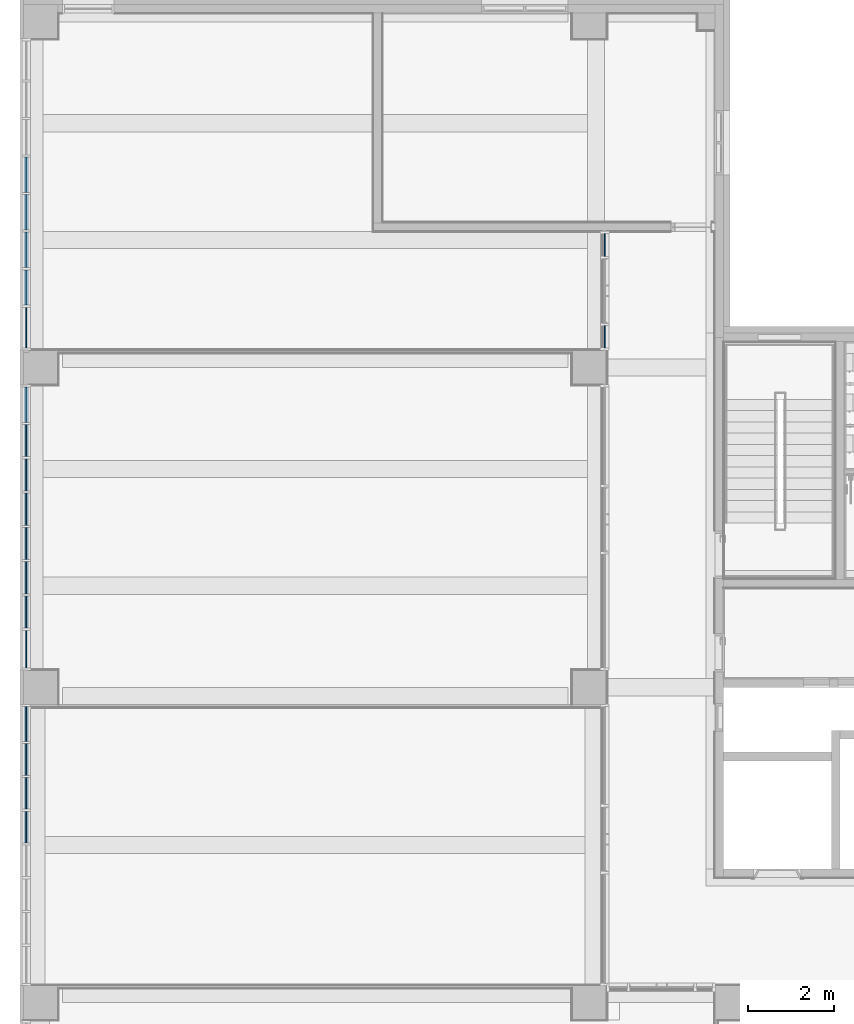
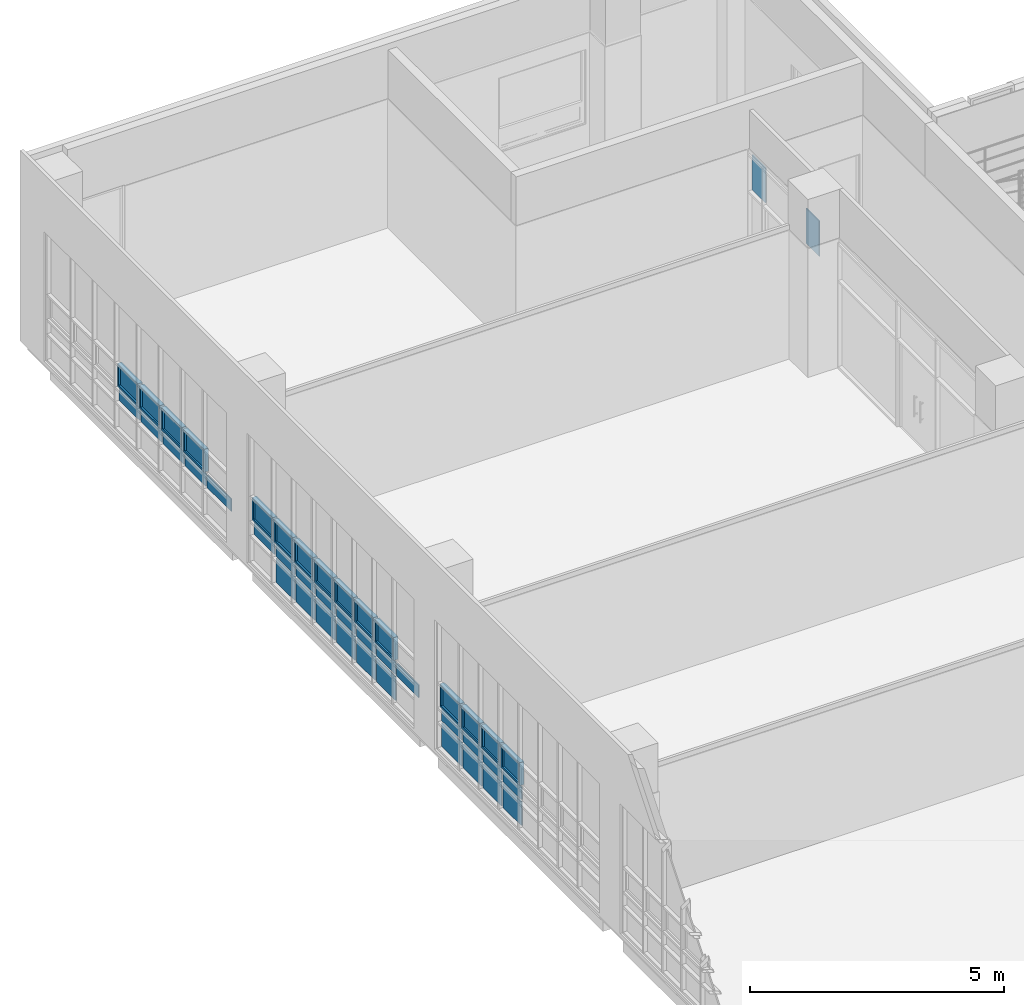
# One storey, part 41 of 74: 44 plates, 4 elements without a shape of their own.
"""IFC2X3 building model written with IfcOpenShell, lengths in millimetres."""

from ifc_helpers import new_model, entity, si_unit, converted_unit, derived_unit, direction, frame, origin, origin_2d_with_axis, place, context, subcontext, project, spatial, polyline, rectangle, outline, extrude, source, transform, mapped, material, material_list, type_object, type_shapes, element, aggregate, save


model = new_model("IFC2X3")

# Units and contexts
model_context = context("Model", 3, precision=0.01, world=origin(), true_north=direction((6.123031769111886e-17, 1.0)))
body_context = subcontext(model_context, "Body", "Model", "MODEL_VIEW")
ifc_project = project(units=[si_unit("LENGTHUNIT", "METRE", prefix="MILLI"), si_unit("AREAUNIT", "SQUARE_METRE"), si_unit("VOLUMEUNIT", "CUBIC_METRE"), converted_unit("PLANEANGLEUNIT", "DEGREE", entity("IfcRatioMeasure", 0.017453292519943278), si_unit("PLANEANGLEUNIT", "RADIAN"), dimensions=[0, 0, 0, 0, 0, 0, 0]), si_unit("MASSUNIT", "GRAM", prefix="KILO"), derived_unit("MASSDENSITYUNIT", [(si_unit("MASSUNIT", "GRAM", prefix="KILO"), 1), (si_unit("LENGTHUNIT", "METRE"), -3)]), derived_unit("MOMENTOFINERTIAUNIT", [(si_unit("LENGTHUNIT", "METRE"), 4)]), si_unit("TIMEUNIT", "SECOND"), si_unit("FREQUENCYUNIT", "HERTZ"), si_unit("THERMODYNAMICTEMPERATUREUNIT", "DEGREE_CELSIUS"), derived_unit("THERMALTRANSMITTANCEUNIT", [(si_unit("MASSUNIT", "GRAM", prefix="KILO"), 1), (si_unit("THERMODYNAMICTEMPERATUREUNIT", "KELVIN"), -1), (si_unit("TIMEUNIT", "SECOND"), -3)]), derived_unit("VOLUMETRICFLOWRATEUNIT", [(si_unit("LENGTHUNIT", "METRE"), 3), (si_unit("TIMEUNIT", "SECOND"), -1)]), derived_unit("MASSFLOWRATEUNIT", [(si_unit("MASSUNIT", "GRAM", prefix="KILO"), 1), (si_unit("TIMEUNIT", "SECOND"), -1)]), derived_unit("ROTATIONALFREQUENCYUNIT", [(si_unit("TIMEUNIT", "SECOND"), -1)]), si_unit("ELECTRICCURRENTUNIT", "AMPERE"), si_unit("ELECTRICVOLTAGEUNIT", "VOLT"), si_unit("POWERUNIT", "WATT"), si_unit("FORCEUNIT", "NEWTON", prefix="KILO"), si_unit("ILLUMINANCEUNIT", "LUX"), si_unit("LUMINOUSFLUXUNIT", "LUMEN"), si_unit("LUMINOUSINTENSITYUNIT", "CANDELA"), derived_unit("USERDEFINED", [(si_unit("MASSUNIT", "GRAM", prefix="KILO"), -1), (si_unit("LENGTHUNIT", "METRE"), -2), (si_unit("TIMEUNIT", "SECOND"), 3), (si_unit("LUMINOUSFLUXUNIT", "LUMEN"), 1)]), derived_unit("SOUNDPOWERUNIT", [(si_unit("MASSUNIT", "GRAM", prefix="KILO"), 1), (si_unit("LENGTHUNIT", "METRE"), 2), (si_unit("TIMEUNIT", "SECOND"), -3)]), derived_unit("SOUNDPRESSUREUNIT", [(si_unit("MASSUNIT", "GRAM", prefix="KILO"), 1), (si_unit("LENGTHUNIT", "METRE"), -1), (si_unit("TIMEUNIT", "SECOND"), -2)]), derived_unit("LINEARVELOCITYUNIT", [(si_unit("LENGTHUNIT", "METRE"), 1), (si_unit("TIMEUNIT", "SECOND"), -1)]), si_unit("PRESSUREUNIT", "PASCAL"), derived_unit("USERDEFINED", [(si_unit("LENGTHUNIT", "METRE"), -2), (si_unit("MASSUNIT", "GRAM", prefix="KILO"), 1), (si_unit("TIMEUNIT", "SECOND"), -2)]), derived_unit("LINEARFORCEUNIT", [(si_unit("MASSUNIT", "GRAM", prefix="KILO"), 1), (si_unit("LENGTHUNIT", "METRE"), 1), (si_unit("TIMEUNIT", "SECOND"), -2), (si_unit("LENGTHUNIT", "METRE"), -1)]), derived_unit("PLANARFORCEUNIT", [(si_unit("MASSUNIT", "GRAM", prefix="KILO"), 1), (si_unit("LENGTHUNIT", "METRE"), 1), (si_unit("TIMEUNIT", "SECOND"), -2), (si_unit("LENGTHUNIT", "METRE"), -2)])], contexts=[model_context])

# Site, building, storey
site_placement = place(None, frame((-14167.972527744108, -657.2125860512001, 0.0)))
site = spatial("IfcSite", under=ifc_project, at=site_placement, Name="Default", CompositionType="ELEMENT")
building_placement = place(site_placement, origin())
building = spatial("IfcBuilding", under=site, at=building_placement, Name="Sample Building", CompositionType="ELEMENT")
storey_placement = place(building_placement, frame((0.0, 0.0, 4800.0)))
storey = spatial("IfcBuildingStorey", under=building, at=storey_placement, Name="지상 2층", CompositionType="ELEMENT", Elevation=4800.000000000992)

# Curtain wall, plates
curtain_wall_type = type_object("IfcCurtainWallType", Name="커튼월:CW112-스테인리스 스틸 커튼월", PredefinedType="NOTDEFINED")
curtain_wall_1_placement = place(storey_placement, frame((0.0, 0.0, -4800.0)))
curtain_wall_1 = element("IfcCurtainWall", 1, at=curtain_wall_1_placement, inside=storey, type_object=curtain_wall_type, Name="커튼월:CW112-스테인리스 스틸 커튼월", ObjectType="커튼월:CW112-스테인리스 스틸 커튼월")
ifc_material_1 = material(Name="KBIMS-로이유리(코팅)")
plate_type_1 = type_object("IfcPlateType", Name="CW300-THK24.Low-e coating glass:CW300-THK24.Low-e coating glass", PredefinedType="CURTAIN_PANEL", material=ifc_material_1)
shared_shape_1 = source(origin(), body_context, "Body", "SweptSolid", [
    extrude(rectangle(XDim=24.000000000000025, YDim=818.7500000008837, at=origin_2d_with_axis()), frame((0.0, 0.0, 0.0), z_axis=(0.0, 0.0, 1.0), x_axis=(0.0, 1.0, 0.0)), (0.0, 0.0, 1.0), 300.0000000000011),
])
type_shapes(plate_type_1, [shared_shape_1])
plate_1_placement = place(curtain_wall_1_placement, frame((14130.455105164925, 31816.58727524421, 5555.0), z_axis=(0.0, 0.0, 1.0), x_axis=(0.0, -1.0, 0.0)))
plate_1 = element("IfcPlate", 2, at=plate_1_placement, type_object=plate_type_1, material=ifc_material_1, Name="CW300-THK24.Low-e coating glass:CW300-THK24.Low-e coating glass", ObjectType="CW300-THK24.Low-e coating glass:CW300-THK24.Low-e coating glass", context=body_context, shape_type="MappedRepresentation", body=[
    mapped(shared_shape_1, transform((0.0, 0.0, 0.0), scale=1.0)),
])
plate_2_placement = place(curtain_wall_1_placement, frame((14130.455105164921, 30947.837275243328, 5555.0), z_axis=(0.0, 0.0, 1.0), x_axis=(0.0, -1.0, 0.0)))
plate_2 = element("IfcPlate", 3, at=plate_2_placement, type_object=plate_type_1, material=ifc_material_1, Name="CW300-THK24.Low-e coating glass:CW300-THK24.Low-e coating glass", ObjectType="CW300-THK24.Low-e coating glass:CW300-THK24.Low-e coating glass", context=body_context, shape_type="MappedRepresentation", body=[
    mapped(shared_shape_1, transform((0.0, 0.0, 0.0), scale=1.0)),
])
plate_3_placement = place(curtain_wall_1_placement, frame((14130.455105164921, 30079.087275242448, 5555.0), z_axis=(0.0, 0.0, 1.0), x_axis=(0.0, -1.0, 0.0)))
plate_3 = element("IfcPlate", 4, at=plate_3_placement, type_object=plate_type_1, material=ifc_material_1, Name="CW300-THK24.Low-e coating glass:CW300-THK24.Low-e coating glass", ObjectType="CW300-THK24.Low-e coating glass:CW300-THK24.Low-e coating glass", context=body_context, shape_type="MappedRepresentation", body=[
    mapped(shared_shape_1, transform((0.0, 0.0, 0.0), scale=1.0)),
])
plate_4_placement = place(curtain_wall_1_placement, frame((14130.45510516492, 29210.337275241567, 5555.0), z_axis=(0.0, 0.0, 1.0), x_axis=(0.0, -1.0, 0.0)))
plate_4 = element("IfcPlate", 5, at=plate_4_placement, type_object=plate_type_1, material=ifc_material_1, Name="CW300-THK24.Low-e coating glass:CW300-THK24.Low-e coating glass", ObjectType="CW300-THK24.Low-e coating glass:CW300-THK24.Low-e coating glass", context=body_context, shape_type="MappedRepresentation", body=[
    mapped(shared_shape_1, transform((0.0, 0.0, 0.0), scale=1.0)),
])
plate_type_2 = type_object("IfcPlateType", Name="CW300-THK24.Low-e coating glass:CW300-THK24.Low-e coating glass", PredefinedType="CURTAIN_PANEL", material=ifc_material_1)
shared_shape_2 = source(origin(), body_context, "Body", "SweptSolid", [
    extrude(rectangle(XDim=24.000000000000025, YDim=943.7500000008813, at=origin_2d_with_axis()), frame((0.0, 0.0, 0.0), z_axis=(0.0, 0.0, 1.0), x_axis=(0.0, 1.0, 0.0)), (0.0, 0.0, 1.0), 300.0000000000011),
])
type_shapes(plate_type_2, [shared_shape_2])
plate_5_placement = place(curtain_wall_1_placement, frame((14130.45510516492, 28279.087275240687, 5555.0), z_axis=(0.0, 0.0, 1.0), x_axis=(0.0, -1.0, 0.0)))
plate_5 = element("IfcPlate", 6, at=plate_5_placement, type_object=plate_type_2, material=ifc_material_1, Name="CW300-THK24.Low-e coating glass:CW300-THK24.Low-e coating glass", ObjectType="CW300-THK24.Low-e coating glass:CW300-THK24.Low-e coating glass", context=body_context, shape_type="MappedRepresentation", body=[
    mapped(shared_shape_2, transform((0.0, 0.0, 0.0), scale=1.0)),
])
ifc_material_2 = material(Name="KBIMS-유리")
ifc_material_3 = material(Name="KBIMS-알루미늄")
ifc_material_list_1 = material_list([ifc_material_2, ifc_material_3])
ifc_material_list_2 = material_list([ifc_material_2, ifc_material_3])
plate_type_3 = type_object("IfcPlateType", Name="CW410-프로젝트 창:CW410-프로젝트 창 (하부개폐)", PredefinedType="CURTAIN_PANEL", material=ifc_material_list_2)
shared_shape_3 = source(origin(), body_context, "Body", "SweptSolid", [
    extrude(rectangle(XDim=718.7500000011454, YDim=23.999999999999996, at=origin_2d_with_axis()), frame((0.0, -0.04999999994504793, 50.0), z_axis=(0.0, 0.0, 1.0), x_axis=(-1.0, 0.0, 0.0)), (0.0, 0.0, 1.0), 450.0000000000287),
    extrude(outline(polyline([(-409.37500000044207, -275.0), (409.37500000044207, -275.0), (409.37500000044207, 275.0), (-409.37500000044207, 275.0), (-409.37500000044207, -275.0)]), holes=[polyline([(-359.3750000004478, -225.0), (-359.37500000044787, 225.0), (359.3750000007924, 225.0), (359.3750000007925, -225.0), (-359.3750000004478, -225.0)])]), frame((0.0, -50.04999999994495, 275.0), z_axis=(0.0, 1.0, 0.0), x_axis=(1.0, 0.0, 0.0)), (0.0, 0.0, 1.0), 99.99999999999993),
])
type_shapes(plate_type_3, [shared_shape_3])
plate_6_placement = place(curtain_wall_1_placement, frame((14130.455105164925, 31816.58727524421, 5905.0), z_axis=(0.0, 0.0, 1.0), x_axis=(0.0, -1.0, 0.0)))
plate_6 = element("IfcPlate", 7, at=plate_6_placement, type_object=plate_type_3, material=ifc_material_list_1, Name="CW410-프로젝트 창:CW410-프로젝트 창 (하부개폐)", ObjectType="CW410-프로젝트 창:CW410-프로젝트 창 (하부개폐)", context=body_context, shape_type="MappedRepresentation", body=[
    mapped(shared_shape_3, transform((0.0, 0.0, 0.0), scale=1.0)),
])
ifc_material_list_3 = material_list([ifc_material_2, ifc_material_3])
plate_7_placement = place(curtain_wall_1_placement, frame((14130.455105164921, 30947.837275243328, 5905.0), z_axis=(0.0, 0.0, 1.0), x_axis=(0.0, -1.0, 0.0)))
plate_7 = element("IfcPlate", 8, at=plate_7_placement, type_object=plate_type_3, material=ifc_material_list_3, Name="CW410-프로젝트 창:CW410-프로젝트 창 (하부개폐)", ObjectType="CW410-프로젝트 창:CW410-프로젝트 창 (하부개폐)", context=body_context, shape_type="MappedRepresentation", body=[
    mapped(shared_shape_3, transform((0.0, 0.0, 0.0), scale=1.0)),
])
ifc_material_list_4 = material_list([ifc_material_2, ifc_material_3])
plate_8_placement = place(curtain_wall_1_placement, frame((14130.455105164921, 30079.087275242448, 5905.0), z_axis=(0.0, 0.0, 1.0), x_axis=(0.0, -1.0, 0.0)))
plate_8 = element("IfcPlate", 9, at=plate_8_placement, type_object=plate_type_3, material=ifc_material_list_4, Name="CW410-프로젝트 창:CW410-프로젝트 창 (하부개폐)", ObjectType="CW410-프로젝트 창:CW410-프로젝트 창 (하부개폐)", context=body_context, shape_type="MappedRepresentation", body=[
    mapped(shared_shape_3, transform((0.0, 0.0, 0.0), scale=1.0)),
])
ifc_material_list_5 = material_list([ifc_material_2, ifc_material_3])
plate_9_placement = place(curtain_wall_1_placement, frame((14130.45510516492, 29210.337275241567, 5905.0), z_axis=(0.0, 0.0, 1.0), x_axis=(0.0, -1.0, 0.0)))
plate_9 = element("IfcPlate", 10, at=plate_9_placement, type_object=plate_type_3, material=ifc_material_list_5, Name="CW410-프로젝트 창:CW410-프로젝트 창 (하부개폐)", ObjectType="CW410-프로젝트 창:CW410-프로젝트 창 (하부개폐)", context=body_context, shape_type="MappedRepresentation", body=[
    mapped(shared_shape_3, transform((0.0, 0.0, 0.0), scale=1.0)),
])
aggregate(curtain_wall_1, [plate_1, plate_2, plate_3, plate_4, plate_5, plate_6, plate_7, plate_8, plate_9])

curtain_wall_2_placement = place(storey_placement, frame((0.0, 0.0, -4800.0)))
curtain_wall_2 = element("IfcCurtainWall", 11, at=curtain_wall_2_placement, inside=storey, type_object=curtain_wall_type, Name="커튼월:CW112-스테인리스 스틸 커튼월", ObjectType="커튼월:CW112-스테인리스 스틸 커튼월")
plate_type_4 = type_object("IfcPlateType", Name="CW300-THK24.Low-e coating glass:CW300-THK24.Low-e coating glass", PredefinedType="CURTAIN_PANEL", material=ifc_material_1)
shared_shape_4 = source(origin(), body_context, "Body", "SweptSolid", [
    extrude(rectangle(XDim=743.7500000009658, YDim=24.000000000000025, at=origin_2d_with_axis()), frame((0.0, 0.0, 0.0), z_axis=(0.0, 0.0, 1.0), x_axis=(-1.0, 0.0, 0.0)), (0.0, 0.0, 1.0), 575.0000000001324),
])
type_shapes(plate_type_4, [shared_shape_4])
plate_10_placement = place(curtain_wall_2_placement, frame((14129.839654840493, 25666.587275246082, 4930.0), z_axis=(0.0, 0.0, 1.0), x_axis=(0.0, -1.0, 0.0)))
plate_10 = element("IfcPlate", 12, at=plate_10_placement, type_object=plate_type_4, material=ifc_material_1, Name="CW300-THK24.Low-e coating glass:CW300-THK24.Low-e coating glass", ObjectType="CW300-THK24.Low-e coating glass:CW300-THK24.Low-e coating glass", context=body_context, shape_type="MappedRepresentation", body=[
    mapped(shared_shape_4, transform((0.0, 0.0, 0.0), scale=1.0)),
])
plate_11_placement = place(curtain_wall_2_placement, frame((14129.839654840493, 24872.837275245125, 4930.0), z_axis=(0.0, 0.0, 1.0), x_axis=(0.0, -1.0, 0.0)))
plate_11 = element("IfcPlate", 13, at=plate_11_placement, type_object=plate_type_4, material=ifc_material_1, Name="CW300-THK24.Low-e coating glass:CW300-THK24.Low-e coating glass", ObjectType="CW300-THK24.Low-e coating glass:CW300-THK24.Low-e coating glass", context=body_context, shape_type="MappedRepresentation", body=[
    mapped(shared_shape_4, transform((0.0, 0.0, 0.0), scale=1.0)),
])
plate_12_placement = place(curtain_wall_2_placement, frame((14129.83965484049, 24079.087275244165, 4930.0), z_axis=(0.0, 0.0, 1.0), x_axis=(0.0, -1.0, 0.0)))
plate_12 = element("IfcPlate", 14, at=plate_12_placement, type_object=plate_type_4, material=ifc_material_1, Name="CW300-THK24.Low-e coating glass:CW300-THK24.Low-e coating glass", ObjectType="CW300-THK24.Low-e coating glass:CW300-THK24.Low-e coating glass", context=body_context, shape_type="MappedRepresentation", body=[
    mapped(shared_shape_4, transform((0.0, 0.0, 0.0), scale=1.0)),
])
plate_13_placement = place(curtain_wall_2_placement, frame((14129.839654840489, 23285.337275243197, 4930.0), z_axis=(0.0, 0.0, 1.0), x_axis=(0.0, -1.0, 0.0)))
plate_13 = element("IfcPlate", 15, at=plate_13_placement, type_object=plate_type_4, material=ifc_material_1, Name="CW300-THK24.Low-e coating glass:CW300-THK24.Low-e coating glass", ObjectType="CW300-THK24.Low-e coating glass:CW300-THK24.Low-e coating glass", context=body_context, shape_type="MappedRepresentation", body=[
    mapped(shared_shape_4, transform((0.0, 0.0, 0.0), scale=1.0)),
])
plate_14_placement = place(curtain_wall_2_placement, frame((14129.839654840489, 22491.58727524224, 4930.0), z_axis=(0.0, 0.0, 1.0), x_axis=(0.0, -1.0, 0.0)))
plate_14 = element("IfcPlate", 16, at=plate_14_placement, type_object=plate_type_4, material=ifc_material_1, Name="CW300-THK24.Low-e coating glass:CW300-THK24.Low-e coating glass", ObjectType="CW300-THK24.Low-e coating glass:CW300-THK24.Low-e coating glass", context=body_context, shape_type="MappedRepresentation", body=[
    mapped(shared_shape_4, transform((0.0, 0.0, 0.0), scale=1.0)),
])
plate_15_placement = place(curtain_wall_2_placement, frame((14129.839654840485, 21697.83727524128, 4930.0), z_axis=(0.0, 0.0, 1.0), x_axis=(0.0, -1.0, 0.0)))
plate_15 = element("IfcPlate", 17, at=plate_15_placement, type_object=plate_type_4, material=ifc_material_1, Name="CW300-THK24.Low-e coating glass:CW300-THK24.Low-e coating glass", ObjectType="CW300-THK24.Low-e coating glass:CW300-THK24.Low-e coating glass", context=body_context, shape_type="MappedRepresentation", body=[
    mapped(shared_shape_4, transform((0.0, 0.0, 0.0), scale=1.0)),
])
plate_type_5 = type_object("IfcPlateType", Name="CW300-THK24.Low-e coating glass:CW300-THK24.Low-e coating glass", PredefinedType="CURTAIN_PANEL", material=ifc_material_1)
shared_shape_5 = source(origin(), body_context, "Body", "SweptSolid", [
    extrude(rectangle(XDim=818.732615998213, YDim=24.000000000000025, at=origin_2d_with_axis()), frame((0.0, 0.0, 0.0), z_axis=(0.0, 0.0, 1.0), x_axis=(-1.0, 0.0, 0.0)), (0.0, 0.0, 1.0), 300.0),
])
type_shapes(plate_type_5, [shared_shape_5])
plate_16_placement = place(curtain_wall_2_placement, frame((14129.839654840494, 26497.82858324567, 5555.0), z_axis=(0.0, 0.0, 1.0), x_axis=(0.0, -1.0, 0.0)))
plate_16 = element("IfcPlate", 18, at=plate_16_placement, type_object=plate_type_5, material=ifc_material_1, Name="CW300-THK24.Low-e coating glass:CW300-THK24.Low-e coating glass", ObjectType="CW300-THK24.Low-e coating glass:CW300-THK24.Low-e coating glass", context=body_context, shape_type="MappedRepresentation", body=[
    mapped(shared_shape_5, transform((0.0, 0.0, 0.0), scale=1.0)),
])
plate_type_6 = type_object("IfcPlateType", Name="CW300-THK24.Low-e coating glass:CW300-THK24.Low-e coating glass", PredefinedType="CURTAIN_PANEL", material=ifc_material_1)
shared_shape_6 = source(origin(), body_context, "Body", "SweptSolid", [
    extrude(rectangle(XDim=743.7500000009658, YDim=24.000000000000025, at=origin_2d_with_axis()), frame((0.0, 0.0, 0.0), z_axis=(0.0, 0.0, 1.0), x_axis=(-1.0, 0.0, 0.0)), (0.0, 0.0, 1.0), 300.0),
])
type_shapes(plate_type_6, [shared_shape_6])
plate_17_placement = place(curtain_wall_2_placement, frame((14129.839654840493, 25666.587275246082, 5555.0), z_axis=(0.0, 0.0, 1.0), x_axis=(0.0, -1.0, 0.0)))
plate_17 = element("IfcPlate", 19, at=plate_17_placement, type_object=plate_type_6, material=ifc_material_1, Name="CW300-THK24.Low-e coating glass:CW300-THK24.Low-e coating glass", ObjectType="CW300-THK24.Low-e coating glass:CW300-THK24.Low-e coating glass", context=body_context, shape_type="MappedRepresentation", body=[
    mapped(shared_shape_6, transform((0.0, 0.0, 0.0), scale=1.0)),
])
plate_18_placement = place(curtain_wall_2_placement, frame((14129.839654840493, 24872.837275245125, 5555.0), z_axis=(0.0, 0.0, 1.0), x_axis=(0.0, -1.0, 0.0)))
plate_18 = element("IfcPlate", 20, at=plate_18_placement, type_object=plate_type_6, material=ifc_material_1, Name="CW300-THK24.Low-e coating glass:CW300-THK24.Low-e coating glass", ObjectType="CW300-THK24.Low-e coating glass:CW300-THK24.Low-e coating glass", context=body_context, shape_type="MappedRepresentation", body=[
    mapped(shared_shape_6, transform((0.0, 0.0, 0.0), scale=1.0)),
])
plate_19_placement = place(curtain_wall_2_placement, frame((14129.83965484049, 24079.087275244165, 5555.0), z_axis=(0.0, 0.0, 1.0), x_axis=(0.0, -1.0, 0.0)))
plate_19 = element("IfcPlate", 21, at=plate_19_placement, type_object=plate_type_6, material=ifc_material_1, Name="CW300-THK24.Low-e coating glass:CW300-THK24.Low-e coating glass", ObjectType="CW300-THK24.Low-e coating glass:CW300-THK24.Low-e coating glass", context=body_context, shape_type="MappedRepresentation", body=[
    mapped(shared_shape_6, transform((0.0, 0.0, 0.0), scale=1.0)),
])
plate_20_placement = place(curtain_wall_2_placement, frame((14129.839654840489, 23285.337275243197, 5555.0), z_axis=(0.0, 0.0, 1.0), x_axis=(0.0, -1.0, 0.0)))
plate_20 = element("IfcPlate", 22, at=plate_20_placement, type_object=plate_type_6, material=ifc_material_1, Name="CW300-THK24.Low-e coating glass:CW300-THK24.Low-e coating glass", ObjectType="CW300-THK24.Low-e coating glass:CW300-THK24.Low-e coating glass", context=body_context, shape_type="MappedRepresentation", body=[
    mapped(shared_shape_6, transform((0.0, 0.0, 0.0), scale=1.0)),
])
plate_21_placement = place(curtain_wall_2_placement, frame((14129.839654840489, 22491.58727524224, 5555.0), z_axis=(0.0, 0.0, 1.0), x_axis=(0.0, -1.0, 0.0)))
plate_21 = element("IfcPlate", 23, at=plate_21_placement, type_object=plate_type_6, material=ifc_material_1, Name="CW300-THK24.Low-e coating glass:CW300-THK24.Low-e coating glass", ObjectType="CW300-THK24.Low-e coating glass:CW300-THK24.Low-e coating glass", context=body_context, shape_type="MappedRepresentation", body=[
    mapped(shared_shape_6, transform((0.0, 0.0, 0.0), scale=1.0)),
])
plate_22_placement = place(curtain_wall_2_placement, frame((14129.839654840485, 21697.83727524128, 5555.0), z_axis=(0.0, 0.0, 1.0), x_axis=(0.0, -1.0, 0.0)))
plate_22 = element("IfcPlate", 24, at=plate_22_placement, type_object=plate_type_6, material=ifc_material_1, Name="CW300-THK24.Low-e coating glass:CW300-THK24.Low-e coating glass", ObjectType="CW300-THK24.Low-e coating glass:CW300-THK24.Low-e coating glass", context=body_context, shape_type="MappedRepresentation", body=[
    mapped(shared_shape_6, transform((0.0, 0.0, 0.0), scale=1.0)),
])
plate_type_7 = type_object("IfcPlateType", Name="CW300-THK24.Low-e coating glass:CW300-THK24.Low-e coating glass", PredefinedType="CURTAIN_PANEL", material=ifc_material_1)
shared_shape_7 = source(origin(), body_context, "Body", "SweptSolid", [
    extrude(rectangle(XDim=868.7673840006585, YDim=24.000000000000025, at=origin_2d_with_axis()), frame((0.0, 0.0, 0.0), z_axis=(0.0, 0.0, 1.0), x_axis=(-1.0, 0.0, 0.0)), (0.0, 0.0, 1.0), 300.0),
])
type_shapes(plate_type_7, [shared_shape_7])
plate_23_placement = place(curtain_wall_2_placement, frame((14129.839654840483, 20841.57858324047, 5555.0), z_axis=(0.0, 0.0, 1.0), x_axis=(0.0, -1.0, 0.0)))
plate_23 = element("IfcPlate", 25, at=plate_23_placement, type_object=plate_type_7, material=ifc_material_1, Name="CW300-THK24.Low-e coating glass:CW300-THK24.Low-e coating glass", ObjectType="CW300-THK24.Low-e coating glass:CW300-THK24.Low-e coating glass", context=body_context, shape_type="MappedRepresentation", body=[
    mapped(shared_shape_7, transform((0.0, 0.0, 0.0), scale=1.0)),
])
ifc_material_list_6 = material_list([ifc_material_2, ifc_material_3])
ifc_material_list_7 = material_list([ifc_material_2, ifc_material_3])
plate_type_8 = type_object("IfcPlateType", Name="CW410-프로젝트 창:CW410-프로젝트 창 (하부개폐)", PredefinedType="CURTAIN_PANEL", material=ifc_material_list_7)
shared_shape_8 = source(origin(), body_context, "Body", "SweptSolid", [
    extrude(rectangle(XDim=718.7326159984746, YDim=23.999999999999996, at=origin_2d_with_axis()), frame((0.0, -0.04999999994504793, 50.0), z_axis=(0.0, 0.0, 1.0), x_axis=(-1.0, 0.0, 0.0)), (0.0, 0.0, 1.0), 450.0000000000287),
    extrude(outline(polyline([(-409.36630799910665, -275.0), (409.36630799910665, -275.0), (409.36630799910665, 275.0), (-409.36630799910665, 275.0), (-409.36630799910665, -275.0)]), holes=[polyline([(-359.3663079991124, -225.0), (-359.3663079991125, 225.0), (359.366307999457, 225.0), (359.3663079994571, -225.0), (-359.3663079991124, -225.0)])]), frame((0.0, -50.04999999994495, 275.0), z_axis=(0.0, 1.0, 0.0), x_axis=(1.0, 0.0, 0.0)), (0.0, 0.0, 1.0), 99.99999999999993),
])
type_shapes(plate_type_8, [shared_shape_8])
plate_24_placement = place(curtain_wall_2_placement, frame((14129.839654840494, 26497.82858324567, 5905.0), z_axis=(0.0, 0.0, 1.0), x_axis=(0.0, -1.0, 0.0)))
plate_24 = element("IfcPlate", 26, at=plate_24_placement, type_object=plate_type_8, material=ifc_material_list_6, Name="CW410-프로젝트 창:CW410-프로젝트 창 (하부개폐)", ObjectType="CW410-프로젝트 창:CW410-프로젝트 창 (하부개폐)", context=body_context, shape_type="MappedRepresentation", body=[
    mapped(shared_shape_8, transform((0.0, 0.0, 0.0), scale=1.0)),
])
ifc_material_list_8 = material_list([ifc_material_2, ifc_material_3])
ifc_material_list_9 = material_list([ifc_material_2, ifc_material_3])
plate_type_9 = type_object("IfcPlateType", Name="CW410-프로젝트 창:CW410-프로젝트 창 (하부개폐)", PredefinedType="CURTAIN_PANEL", material=ifc_material_list_9)
shared_shape_9 = source(origin(), body_context, "Body", "SweptSolid", [
    extrude(rectangle(XDim=643.7500000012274, YDim=23.999999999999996, at=origin_2d_with_axis()), frame((0.0, -0.04999999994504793, 50.0), z_axis=(0.0, 0.0, 1.0), x_axis=(-1.0, 0.0, 0.0)), (0.0, 0.0, 1.0), 450.0000000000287),
    extrude(outline(polyline([(-371.8750000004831, -275.0), (371.8750000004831, -275.0), (371.8750000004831, 275.0), (-371.8750000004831, 275.0), (-371.8750000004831, -275.0)]), holes=[polyline([(-321.87500000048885, -225.0), (-321.8750000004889, 225.0), (321.8750000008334, 225.0), (321.87500000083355, -225.0), (-321.87500000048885, -225.0)])]), frame((0.0, -50.04999999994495, 275.0), z_axis=(0.0, 1.0, 0.0), x_axis=(1.0, 0.0, 0.0)), (0.0, 0.0, 1.0), 99.99999999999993),
])
type_shapes(plate_type_9, [shared_shape_9])
plate_25_placement = place(curtain_wall_2_placement, frame((14129.839654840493, 25666.587275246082, 5905.0), z_axis=(0.0, 0.0, 1.0), x_axis=(0.0, -1.0, 0.0)))
plate_25 = element("IfcPlate", 27, at=plate_25_placement, type_object=plate_type_9, material=ifc_material_list_8, Name="CW410-프로젝트 창:CW410-프로젝트 창 (하부개폐)", ObjectType="CW410-프로젝트 창:CW410-프로젝트 창 (하부개폐)", context=body_context, shape_type="MappedRepresentation", body=[
    mapped(shared_shape_9, transform((0.0, 0.0, 0.0), scale=1.0)),
])
ifc_material_list_10 = material_list([ifc_material_2, ifc_material_3])
plate_26_placement = place(curtain_wall_2_placement, frame((14129.839654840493, 24872.837275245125, 5905.0), z_axis=(0.0, 0.0, 1.0), x_axis=(0.0, -1.0, 0.0)))
plate_26 = element("IfcPlate", 28, at=plate_26_placement, type_object=plate_type_9, material=ifc_material_list_10, Name="CW410-프로젝트 창:CW410-프로젝트 창 (하부개폐)", ObjectType="CW410-프로젝트 창:CW410-프로젝트 창 (하부개폐)", context=body_context, shape_type="MappedRepresentation", body=[
    mapped(shared_shape_9, transform((0.0, 0.0, 0.0), scale=1.0)),
])
ifc_material_list_11 = material_list([ifc_material_2, ifc_material_3])
plate_27_placement = place(curtain_wall_2_placement, frame((14129.83965484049, 24079.087275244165, 5905.0), z_axis=(0.0, 0.0, 1.0), x_axis=(0.0, -1.0, 0.0)))
plate_27 = element("IfcPlate", 29, at=plate_27_placement, type_object=plate_type_9, material=ifc_material_list_11, Name="CW410-프로젝트 창:CW410-프로젝트 창 (하부개폐)", ObjectType="CW410-프로젝트 창:CW410-프로젝트 창 (하부개폐)", context=body_context, shape_type="MappedRepresentation", body=[
    mapped(shared_shape_9, transform((0.0, 0.0, 0.0), scale=1.0)),
])
ifc_material_list_12 = material_list([ifc_material_2, ifc_material_3])
plate_28_placement = place(curtain_wall_2_placement, frame((14129.839654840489, 23285.337275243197, 5905.0), z_axis=(0.0, 0.0, 1.0), x_axis=(0.0, -1.0, 0.0)))
plate_28 = element("IfcPlate", 30, at=plate_28_placement, type_object=plate_type_9, material=ifc_material_list_12, Name="CW410-프로젝트 창:CW410-프로젝트 창 (하부개폐)", ObjectType="CW410-프로젝트 창:CW410-프로젝트 창 (하부개폐)", context=body_context, shape_type="MappedRepresentation", body=[
    mapped(shared_shape_9, transform((0.0, 0.0, 0.0), scale=1.0)),
])
ifc_material_list_13 = material_list([ifc_material_2, ifc_material_3])
plate_29_placement = place(curtain_wall_2_placement, frame((14129.839654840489, 22491.58727524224, 5905.0), z_axis=(0.0, 0.0, 1.0), x_axis=(0.0, -1.0, 0.0)))
plate_29 = element("IfcPlate", 31, at=plate_29_placement, type_object=plate_type_9, material=ifc_material_list_13, Name="CW410-프로젝트 창:CW410-프로젝트 창 (하부개폐)", ObjectType="CW410-프로젝트 창:CW410-프로젝트 창 (하부개폐)", context=body_context, shape_type="MappedRepresentation", body=[
    mapped(shared_shape_9, transform((0.0, 0.0, 0.0), scale=1.0)),
])
ifc_material_list_14 = material_list([ifc_material_2, ifc_material_3])
plate_30_placement = place(curtain_wall_2_placement, frame((14129.839654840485, 21697.83727524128, 5905.0), z_axis=(0.0, 0.0, 1.0), x_axis=(0.0, -1.0, 0.0)))
plate_30 = element("IfcPlate", 32, at=plate_30_placement, type_object=plate_type_9, material=ifc_material_list_14, Name="CW410-프로젝트 창:CW410-프로젝트 창 (하부개폐)", ObjectType="CW410-프로젝트 창:CW410-프로젝트 창 (하부개폐)", context=body_context, shape_type="MappedRepresentation", body=[
    mapped(shared_shape_9, transform((0.0, 0.0, 0.0), scale=1.0)),
])
aggregate(curtain_wall_2, [plate_10, plate_11, plate_12, plate_13, plate_14, plate_15, plate_16, plate_17, plate_18, plate_19, plate_20, plate_21, plate_22, plate_23, plate_24, plate_25, plate_26, plate_27, plate_28, plate_29, plate_30])

curtain_wall_3_placement = place(storey_placement, frame((0.0, 0.0, -4800.0)))
curtain_wall_3 = element("IfcCurtainWall", 33, at=curtain_wall_3_placement, inside=storey, type_object=curtain_wall_type, Name="커튼월:CW112-스테인리스 스틸 커튼월", ObjectType="커튼월:CW112-스테인리스 스틸 커튼월")
plate_type_10 = type_object("IfcPlateType", Name="CW300-THK24.Low-e coating glass:CW300-THK24.Low-e coating glass", PredefinedType="CURTAIN_PANEL", material=ifc_material_1)
shared_shape_10 = source(origin(), body_context, "Body", "SweptSolid", [
    extrude(rectangle(XDim=806.2500327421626, YDim=24.000000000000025, at=origin_2d_with_axis()), frame((0.0, 0.0, 0.0), z_axis=(0.0, 0.0, 1.0), x_axis=(-1.0, 0.0, 0.0)), (0.0, 0.0, 1.0), 575.0000000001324),
])
type_shapes(plate_type_10, [shared_shape_10])
plate_31_placement = place(curtain_wall_3_placement, frame((14130.472570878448, 19104.08729161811, 4930.0), z_axis=(0.0, 0.0, 1.0), x_axis=(0.0, -1.0, 0.0)))
plate_31 = element("IfcPlate", 34, at=plate_31_placement, type_object=plate_type_10, material=ifc_material_1, Name="CW300-THK24.Low-e coating glass:CW300-THK24.Low-e coating glass", ObjectType="CW300-THK24.Low-e coating glass:CW300-THK24.Low-e coating glass", context=body_context, shape_type="MappedRepresentation", body=[
    mapped(shared_shape_10, transform((0.0, 0.0, 0.0), scale=1.0)),
])
plate_type_11 = type_object("IfcPlateType", Name="CW300-THK24.Low-e coating glass:CW300-THK24.Low-e coating glass", PredefinedType="CURTAIN_PANEL", material=ifc_material_1)
shared_shape_11 = source(origin(), body_context, "Body", "SweptSolid", [
    extrude(rectangle(XDim=731.2499999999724, YDim=24.000000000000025, at=origin_2d_with_axis()), frame((0.0, 0.0, 0.0), z_axis=(0.0, 0.0, 1.0), x_axis=(-1.0, 0.0, 0.0)), (0.0, 0.0, 1.0), 575.0000000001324),
])
type_shapes(plate_type_11, [shared_shape_11])
plate_32_placement = place(curtain_wall_3_placement, frame((14130.472570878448, 18285.33727524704, 4930.0), z_axis=(0.0, 0.0, 1.0), x_axis=(0.0, -1.0, 0.0)))
plate_32 = element("IfcPlate", 35, at=plate_32_placement, type_object=plate_type_11, material=ifc_material_1, Name="CW300-THK24.Low-e coating glass:CW300-THK24.Low-e coating glass", ObjectType="CW300-THK24.Low-e coating glass:CW300-THK24.Low-e coating glass", context=body_context, shape_type="MappedRepresentation", body=[
    mapped(shared_shape_11, transform((0.0, 0.0, 0.0), scale=1.0)),
])
plate_33_placement = place(curtain_wall_3_placement, frame((14130.472570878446, 17504.087275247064, 4930.0), z_axis=(0.0, 0.0, 1.0), x_axis=(0.0, -1.0, 0.0)))
plate_33 = element("IfcPlate", 36, at=plate_33_placement, type_object=plate_type_11, material=ifc_material_1, Name="CW300-THK24.Low-e coating glass:CW300-THK24.Low-e coating glass", ObjectType="CW300-THK24.Low-e coating glass:CW300-THK24.Low-e coating glass", context=body_context, shape_type="MappedRepresentation", body=[
    mapped(shared_shape_11, transform((0.0, 0.0, 0.0), scale=1.0)),
])
plate_34_placement = place(curtain_wall_3_placement, frame((14130.472570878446, 16722.83727524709, 4930.0), z_axis=(0.0, 0.0, 1.0), x_axis=(0.0, -1.0, 0.0)))
plate_34 = element("IfcPlate", 37, at=plate_34_placement, type_object=plate_type_11, material=ifc_material_1, Name="CW300-THK24.Low-e coating glass:CW300-THK24.Low-e coating glass", ObjectType="CW300-THK24.Low-e coating glass:CW300-THK24.Low-e coating glass", context=body_context, shape_type="MappedRepresentation", body=[
    mapped(shared_shape_11, transform((0.0, 0.0, 0.0), scale=1.0)),
])
plate_type_12 = type_object("IfcPlateType", Name="CW300-THK24.Low-e coating glass:CW300-THK24.Low-e coating glass", PredefinedType="CURTAIN_PANEL", material=ifc_material_1)
shared_shape_12 = source(origin(), body_context, "Body", "SweptSolid", [
    extrude(rectangle(XDim=806.2500327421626, YDim=24.000000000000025, at=origin_2d_with_axis()), frame((0.0, 0.0, 0.0), z_axis=(0.0, 0.0, 1.0), x_axis=(-1.0, 0.0, 0.0)), (0.0, 0.0, 1.0), 300.0),
])
type_shapes(plate_type_12, [shared_shape_12])
plate_35_placement = place(curtain_wall_3_placement, frame((14130.472570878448, 19104.08729161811, 5555.0), z_axis=(0.0, 0.0, 1.0), x_axis=(0.0, -1.0, 0.0)))
plate_35 = element("IfcPlate", 38, at=plate_35_placement, type_object=plate_type_12, material=ifc_material_1, Name="CW300-THK24.Low-e coating glass:CW300-THK24.Low-e coating glass", ObjectType="CW300-THK24.Low-e coating glass:CW300-THK24.Low-e coating glass", context=body_context, shape_type="MappedRepresentation", body=[
    mapped(shared_shape_12, transform((0.0, 0.0, 0.0), scale=1.0)),
])
plate_type_13 = type_object("IfcPlateType", Name="CW300-THK24.Low-e coating glass:CW300-THK24.Low-e coating glass", PredefinedType="CURTAIN_PANEL", material=ifc_material_1)
shared_shape_13 = source(origin(), body_context, "Body", "SweptSolid", [
    extrude(rectangle(XDim=731.2499999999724, YDim=24.000000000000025, at=origin_2d_with_axis()), frame((0.0, 0.0, 0.0), z_axis=(0.0, 0.0, 1.0), x_axis=(-1.0, 0.0, 0.0)), (0.0, 0.0, 1.0), 300.0),
])
type_shapes(plate_type_13, [shared_shape_13])
plate_36_placement = place(curtain_wall_3_placement, frame((14130.472570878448, 18285.33727524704, 5555.0), z_axis=(0.0, 0.0, 1.0), x_axis=(0.0, -1.0, 0.0)))
plate_36 = element("IfcPlate", 39, at=plate_36_placement, type_object=plate_type_13, material=ifc_material_1, Name="CW300-THK24.Low-e coating glass:CW300-THK24.Low-e coating glass", ObjectType="CW300-THK24.Low-e coating glass:CW300-THK24.Low-e coating glass", context=body_context, shape_type="MappedRepresentation", body=[
    mapped(shared_shape_13, transform((0.0, 0.0, 0.0), scale=1.0)),
])
plate_37_placement = place(curtain_wall_3_placement, frame((14130.472570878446, 17504.087275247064, 5555.0), z_axis=(0.0, 0.0, 1.0), x_axis=(0.0, -1.0, 0.0)))
plate_37 = element("IfcPlate", 40, at=plate_37_placement, type_object=plate_type_13, material=ifc_material_1, Name="CW300-THK24.Low-e coating glass:CW300-THK24.Low-e coating glass", ObjectType="CW300-THK24.Low-e coating glass:CW300-THK24.Low-e coating glass", context=body_context, shape_type="MappedRepresentation", body=[
    mapped(shared_shape_13, transform((0.0, 0.0, 0.0), scale=1.0)),
])
plate_38_placement = place(curtain_wall_3_placement, frame((14130.472570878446, 16722.83727524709, 5555.0), z_axis=(0.0, 0.0, 1.0), x_axis=(0.0, -1.0, 0.0)))
plate_38 = element("IfcPlate", 41, at=plate_38_placement, type_object=plate_type_13, material=ifc_material_1, Name="CW300-THK24.Low-e coating glass:CW300-THK24.Low-e coating glass", ObjectType="CW300-THK24.Low-e coating glass:CW300-THK24.Low-e coating glass", context=body_context, shape_type="MappedRepresentation", body=[
    mapped(shared_shape_13, transform((0.0, 0.0, 0.0), scale=1.0)),
])
ifc_material_list_15 = material_list([ifc_material_2, ifc_material_3])
ifc_material_list_16 = material_list([ifc_material_2, ifc_material_3])
plate_type_14 = type_object("IfcPlateType", Name="CW410-프로젝트 창:CW410-프로젝트 창 (하부개폐)", PredefinedType="CURTAIN_PANEL", material=ifc_material_list_16)
shared_shape_14 = source(origin(), body_context, "Body", "SweptSolid", [
    extrude(rectangle(XDim=706.2500327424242, YDim=23.999999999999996, at=origin_2d_with_axis()), frame((0.0, -0.04999999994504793, 50.0), z_axis=(0.0, 0.0, 1.0), x_axis=(-1.0, 0.0, 0.0)), (0.0, 0.0, 1.0), 450.0000000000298),
    extrude(outline(polyline([(-403.1250163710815, -275.0), (403.1250163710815, -275.0), (403.1250163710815, 275.0), (-403.1250163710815, 275.0), (-403.1250163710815, -275.0)]), holes=[polyline([(-353.1250163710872, -225.0), (-353.1250163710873, 225.0), (353.1250163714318, 225.0), (353.1250163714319, -225.0), (-353.1250163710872, -225.0)])]), frame((0.0, -50.04999999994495, 275.0), z_axis=(0.0, 1.0, 0.0), x_axis=(1.0, 0.0, 0.0)), (0.0, 0.0, 1.0), 99.99999999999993),
])
type_shapes(plate_type_14, [shared_shape_14])
plate_39_placement = place(curtain_wall_3_placement, frame((14130.472570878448, 19104.08729161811, 5905.0), z_axis=(0.0, 0.0, 1.0), x_axis=(0.0, -1.0, 0.0)))
plate_39 = element("IfcPlate", 42, at=plate_39_placement, type_object=plate_type_14, material=ifc_material_list_15, Name="CW410-프로젝트 창:CW410-프로젝트 창 (하부개폐)", ObjectType="CW410-프로젝트 창:CW410-프로젝트 창 (하부개폐)", context=body_context, shape_type="MappedRepresentation", body=[
    mapped(shared_shape_14, transform((0.0, 0.0, 0.0), scale=1.0)),
])
ifc_material_list_17 = material_list([ifc_material_2, ifc_material_3])
ifc_material_list_18 = material_list([ifc_material_2, ifc_material_3])
plate_type_15 = type_object("IfcPlateType", Name="CW410-프로젝트 창:CW410-프로젝트 창 (하부개폐)", PredefinedType="CURTAIN_PANEL", material=ifc_material_list_18)
shared_shape_15 = source(origin(), body_context, "Body", "SweptSolid", [
    extrude(rectangle(XDim=631.250000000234, YDim=23.999999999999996, at=origin_2d_with_axis()), frame((0.0, -0.04999999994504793, 50.0), z_axis=(0.0, 0.0, 1.0), x_axis=(-1.0, 0.0, 0.0)), (0.0, 0.0, 1.0), 450.0000000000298),
    extrude(outline(polyline([(-365.6249999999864, -275.0), (365.6249999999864, -275.0), (365.6249999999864, 275.0), (-365.6249999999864, 275.0), (-365.6249999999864, -275.0)]), holes=[polyline([(-315.62499999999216, -225.0), (-315.6249999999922, 225.0), (315.6250000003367, 225.0), (315.62500000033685, -225.0), (-315.62499999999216, -225.0)])]), frame((0.0, -50.04999999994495, 275.0), z_axis=(0.0, 1.0, 0.0), x_axis=(1.0, 0.0, 0.0)), (0.0, 0.0, 1.0), 99.99999999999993),
])
type_shapes(plate_type_15, [shared_shape_15])
plate_40_placement = place(curtain_wall_3_placement, frame((14130.472570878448, 18285.33727524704, 5905.0), z_axis=(0.0, 0.0, 1.0), x_axis=(0.0, -1.0, 0.0)))
plate_40 = element("IfcPlate", 43, at=plate_40_placement, type_object=plate_type_15, material=ifc_material_list_17, Name="CW410-프로젝트 창:CW410-프로젝트 창 (하부개폐)", ObjectType="CW410-프로젝트 창:CW410-프로젝트 창 (하부개폐)", context=body_context, shape_type="MappedRepresentation", body=[
    mapped(shared_shape_15, transform((0.0, 0.0, 0.0), scale=1.0)),
])
ifc_material_list_19 = material_list([ifc_material_2, ifc_material_3])
plate_41_placement = place(curtain_wall_3_placement, frame((14130.472570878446, 17504.087275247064, 5905.0), z_axis=(0.0, 0.0, 1.0), x_axis=(0.0, -1.0, 0.0)))
plate_41 = element("IfcPlate", 44, at=plate_41_placement, type_object=plate_type_15, material=ifc_material_list_19, Name="CW410-프로젝트 창:CW410-프로젝트 창 (하부개폐)", ObjectType="CW410-프로젝트 창:CW410-프로젝트 창 (하부개폐)", context=body_context, shape_type="MappedRepresentation", body=[
    mapped(shared_shape_15, transform((0.0, 0.0, 0.0), scale=1.0)),
])
ifc_material_list_20 = material_list([ifc_material_2, ifc_material_3])
plate_42_placement = place(curtain_wall_3_placement, frame((14130.472570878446, 16722.83727524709, 5905.0), z_axis=(0.0, 0.0, 1.0), x_axis=(0.0, -1.0, 0.0)))
plate_42 = element("IfcPlate", 45, at=plate_42_placement, type_object=plate_type_15, material=ifc_material_list_20, Name="CW410-프로젝트 창:CW410-프로젝트 창 (하부개폐)", ObjectType="CW410-프로젝트 창:CW410-프로젝트 창 (하부개폐)", context=body_context, shape_type="MappedRepresentation", body=[
    mapped(shared_shape_15, transform((0.0, 0.0, 0.0), scale=1.0)),
])
aggregate(curtain_wall_3, [plate_31, plate_32, plate_33, plate_34, plate_35, plate_36, plate_37, plate_38, plate_39, plate_40, plate_41, plate_42])

curtain_wall_4_placement = place(storey_placement, frame((0.0, 0.0, -4800.0)))
curtain_wall_4 = element("IfcCurtainWall", 46, at=curtain_wall_4_placement, inside=storey, type_object=curtain_wall_type, Name="커튼월:CW112-스테인리스 스틸 커튼월", ObjectType="커튼월:CW112-스테인리스 스틸 커튼월")
plate_type_16 = type_object("IfcPlateType", Name="CW300-THK24.Low-e coating glass:CW300-THK24.Low-e coating glass", PredefinedType="CURTAIN_PANEL", material=ifc_material_1)
shared_shape_16 = source(origin(), body_context, "Body", "SweptSolid", [
    extrude(rectangle(XDim=524.9999999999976, YDim=24.000000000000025, at=origin_2d_with_axis()), frame((0.0, 0.0, 0.0), z_axis=(0.0, 0.0, 1.0), x_axis=(-1.0, 0.0, 0.0)), (0.0, 0.0, 1.0), 845.0000000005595),
])
type_shapes(plate_type_16, [shared_shape_16])
plate_43_placement = place(curtain_wall_4_placement, frame((27522.980314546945, 30194.712275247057, 7005.0), z_axis=(0.0, 0.0, 1.0), x_axis=(0.0, -1.0, 0.0)))
plate_43 = element("IfcPlate", 47, at=plate_43_placement, type_object=plate_type_16, material=ifc_material_1, Name="CW300-THK24.Low-e coating glass:CW300-THK24.Low-e coating glass", ObjectType="CW300-THK24.Low-e coating glass:CW300-THK24.Low-e coating glass", context=body_context, shape_type="MappedRepresentation", body=[
    mapped(shared_shape_16, transform((0.0, 0.0, 0.0), scale=1.0)),
])
plate_type_17 = type_object("IfcPlateType", Name="CW300-THK24.Low-e coating glass:CW300-THK24.Low-e coating glass", PredefinedType="CURTAIN_PANEL", material=ifc_material_1)
shared_shape_17 = source(origin(), body_context, "Body", "SweptSolid", [
    extrude(rectangle(XDim=519.9999999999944, YDim=24.000000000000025, at=origin_2d_with_axis()), frame((0.0, 0.0, 0.0), z_axis=(0.0, 0.0, 1.0), x_axis=(-1.0, 0.0, 0.0)), (0.0, 0.0, 1.0), 845.0000000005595),
])
type_shapes(plate_type_17, [shared_shape_17])
plate_44_placement = place(curtain_wall_4_placement, frame((27522.98031454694, 28067.212586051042, 7005.0), z_axis=(0.0, 0.0, 1.0), x_axis=(0.0, -1.0, 0.0)))
plate_44 = element("IfcPlate", 48, at=plate_44_placement, type_object=plate_type_17, material=ifc_material_1, Name="CW300-THK24.Low-e coating glass:CW300-THK24.Low-e coating glass", ObjectType="CW300-THK24.Low-e coating glass:CW300-THK24.Low-e coating glass", context=body_context, shape_type="MappedRepresentation", body=[
    mapped(shared_shape_17, transform((0.0, 0.0, 0.0), scale=1.0)),
])
aggregate(curtain_wall_4, [plate_43, plate_44])

save(model, "model.ifc")
